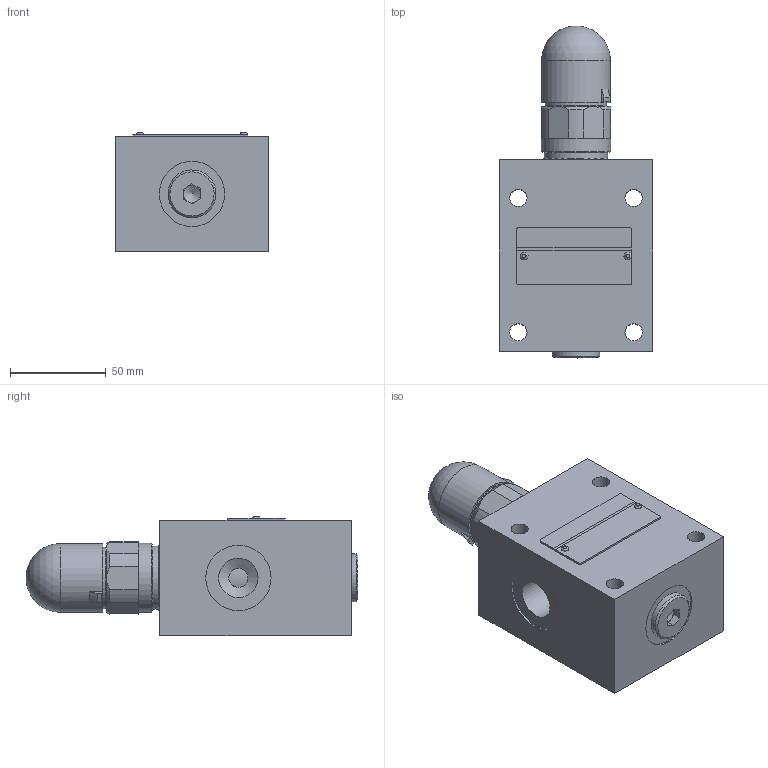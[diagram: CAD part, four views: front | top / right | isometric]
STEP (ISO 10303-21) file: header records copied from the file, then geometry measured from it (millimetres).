
FILE_DESCRIPTION(/* description */ (''),/* implementation_level */ '2;1');
FILE_NAME(/* name */ 'DBDS10G-1XJ直动型管式溢流阀.prt.stp',/* time_stamp */ '2022-03-30T20:14:31+08:00',/* author */ (''),/* organization */ (''),/* preprocessor_version */ 'ST-DEVELOPER v16.7',/* originating_system */ 'SIEMENS PLM Software NX 12.0',/* authorisation */ '');
FILE_SCHEMA (('AUTOMOTIVE_DESIGN { 1 0 10303 214 3 1 1 1 }'));
Length unit declared in the file: millimetre
Products named in the file (1): DBDS10G-1XJ直动型管式溢流阀
Bounding box: 80 x 172.92 x 62 mm (x, y, z)
Volume: 532006.7 mm3; surface area: 92373.1 mm2
Topology: 15 solids, 16 shells, 464 faces, 1079 edges, 666 vertices
Faces by surface type: plane 256, cylinder 120, cone 50, bspline 18, torus 18, sphere 2
Full cylindrical faces by diameter (mm): 1 x1, 1.8 x4, 1.9 x2, 2 x1, 3.1 x2, 4.5 x4, 5.5 x4, 5.7 x1, 6 x2, 6.2 x1, 6.8 x4, 9 x5, 10 x3, 13 x2, 19.7 x1, 20 x1, 20.5 x2, 21.3 x1, 22.5 x2, 24.8 x1, 25 x1, 27.3 x2, 28 x3, 30 x2, 30.025 x1, 31 x1, 31.5 x1, 32 x6, 32.9 x1, 33.5 x12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
Entity records: 24882 total; most frequent: CARTESIAN_POINT 15475, DIRECTION 1822, ORIENTED_EDGE 1756, EDGE_CURVE 878, AXIS2_PLACEMENT_3D 743, EDGE_LOOP 629, VERTEX_POINT 610, ADVANCED_FACE 452
